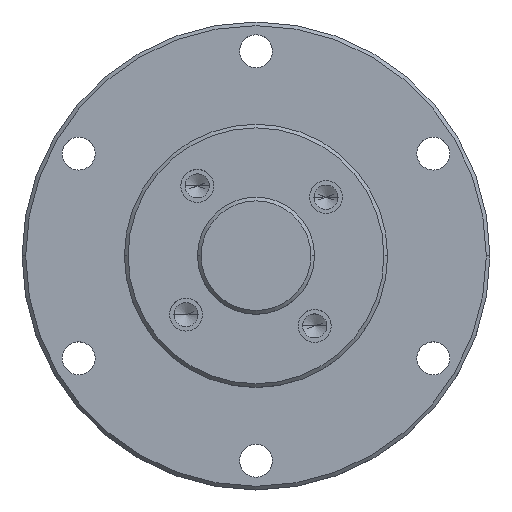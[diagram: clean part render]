
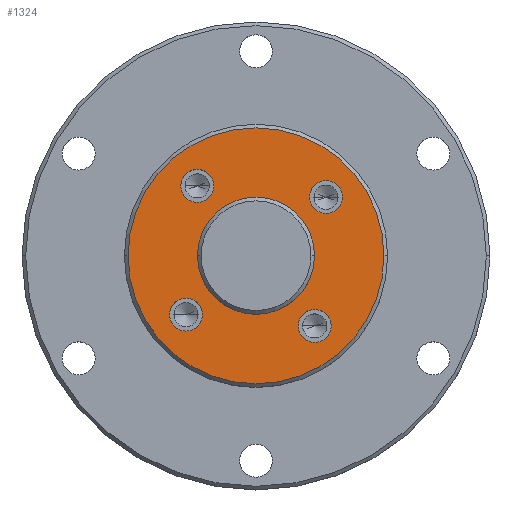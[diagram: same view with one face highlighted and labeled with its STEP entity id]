
A CAD part, top view. The second image highlights one B-rep face of the part: STEP entity #1324.
In plain terms, the highlighted planar face has unit normal (0, 0, 1).
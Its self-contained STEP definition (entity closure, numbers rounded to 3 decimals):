
#10 = DIRECTION ( 'NONE',  ( -1., 0., 0. ) ) ;
#32 = ORIENTED_EDGE ( 'NONE', *, *, #1759, .T. ) ;
#42 = CIRCLE ( 'NONE', #1383, 2.25 ) ;
#44 = FACE_BOUND ( 'NONE', #210, .T. ) ;
#81 = EDGE_CURVE ( 'NONE', #472, #2033, #42, .T. ) ;
#83 = CARTESIAN_POINT ( 'NONE',  ( -9.576, -8.035, 0. ) ) ;
#90 = CARTESIAN_POINT ( 'NONE',  ( 17.5, 0., 0. ) ) ;
#91 = AXIS2_PLACEMENT_3D ( 'NONE', #1137, #793, #290 ) ;
#126 = VERTEX_POINT ( 'NONE', #2074 ) ;
#129 = FACE_BOUND ( 'NONE', #233, .T. ) ;
#144 = CARTESIAN_POINT ( 'NONE',  ( -8.035, 9.576, 0. ) ) ;
#154 = CARTESIAN_POINT ( 'NONE',  ( -17.5, 0., 0. ) ) ;
#161 = CIRCLE ( 'NONE', #1729, 2.25 ) ;
#165 = EDGE_LOOP ( 'NONE', ( #293, #1725 ) ) ;
#179 = CIRCLE ( 'NONE', #936, 2.25 ) ;
#207 = CIRCLE ( 'NONE', #1188, 17.5 ) ;
#210 = EDGE_LOOP ( 'NONE', ( #1830, #887 ) ) ;
#233 = EDGE_LOOP ( 'NONE', ( #311, #1516 ) ) ;
#252 = DIRECTION ( 'NONE',  ( 1., 0., 0. ) ) ;
#280 = CARTESIAN_POINT ( 'NONE',  ( 8., 0., 0. ) ) ;
#290 = DIRECTION ( 'NONE',  ( -1., 0., 0. ) ) ;
#293 = ORIENTED_EDGE ( 'NONE', *, *, #81, .F. ) ;
#304 = DIRECTION ( 'NONE',  ( 1., 0., 0. ) ) ;
#311 = ORIENTED_EDGE ( 'NONE', *, *, #1004, .F. ) ;
#316 = VERTEX_POINT ( 'NONE', #1646 ) ;
#327 = EDGE_CURVE ( 'NONE', #2033, #472, #1574, .T. ) ;
#333 = DIRECTION ( 'NONE',  ( 0., 0., 1. ) ) ;
#361 = CARTESIAN_POINT ( 'NONE',  ( 8.035, -9.576, 0. ) ) ;
#369 = CARTESIAN_POINT ( 'NONE',  ( 8.035, -9.576, 0. ) ) ;
#371 = ORIENTED_EDGE ( 'NONE', *, *, #392, .F. ) ;
#376 = EDGE_CURVE ( 'NONE', #1550, #316, #1522, .T. ) ;
#392 = EDGE_CURVE ( 'NONE', #316, #1550, #770, .T. ) ;
#440 = EDGE_LOOP ( 'NONE', ( #1168, #32 ) ) ;
#472 = VERTEX_POINT ( 'NONE', #1444 ) ;
#490 = CARTESIAN_POINT ( 'NONE',  ( 0., 0., 0. ) ) ;
#504 = AXIS2_PLACEMENT_3D ( 'NONE', #1345, #333, #1519 ) ;
#531 = DIRECTION ( 'NONE',  ( 1., 0., 0. ) ) ;
#537 = DIRECTION ( 'NONE',  ( 1., 0., 0. ) ) ;
#567 = AXIS2_PLACEMENT_3D ( 'NONE', #1775, #748, #1935 ) ;
#609 = CARTESIAN_POINT ( 'NONE',  ( -10.285, 9.576, 0. ) ) ;
#645 = ORIENTED_EDGE ( 'NONE', *, *, #1549, .F. ) ;
#668 = DIRECTION ( 'NONE',  ( 1., 0., 0. ) ) ;
#717 = AXIS2_PLACEMENT_3D ( 'NONE', #2024, #1023, #10 ) ;
#748 = DIRECTION ( 'NONE',  ( 0., 0., 1. ) ) ;
#770 = CIRCLE ( 'NONE', #1150, 2.25 ) ;
#793 = DIRECTION ( 'NONE',  ( 0., 0., -1. ) ) ;
#823 = VERTEX_POINT ( 'NONE', #90 ) ;
#829 = CARTESIAN_POINT ( 'NONE',  ( 0., 0., 0. ) ) ;
#836 = CIRCLE ( 'NONE', #717, 17.5 ) ;
#882 = CARTESIAN_POINT ( 'NONE',  ( 7.326, 8.035, 0. ) ) ;
#887 = ORIENTED_EDGE ( 'NONE', *, *, #1434, .F. ) ;
#889 = CARTESIAN_POINT ( 'NONE',  ( -8., 0., 0. ) ) ;
#900 = DIRECTION ( 'NONE',  ( 0., 0., 1. ) ) ;
#904 = CIRCLE ( 'NONE', #504, 8. ) ;
#923 = EDGE_CURVE ( 'NONE', #1532, #823, #836, .T. ) ;
#936 = AXIS2_PLACEMENT_3D ( 'NONE', #369, #1559, #537 ) ;
#939 = CARTESIAN_POINT ( 'NONE',  ( 9.576, 8.035, 0. ) ) ;
#941 = ORIENTED_EDGE ( 'NONE', *, *, #376, .F. ) ;
#968 = PLANE ( 'NONE',  #91 ) ;
#970 = DIRECTION ( 'NONE',  ( 0., 0., 1. ) ) ;
#995 = DIRECTION ( 'NONE',  ( -1., 0., 0. ) ) ;
#1004 = EDGE_CURVE ( 'NONE', #126, #1548, #179, .T. ) ;
#1015 = CARTESIAN_POINT ( 'NONE',  ( -8.035, 9.576, 0. ) ) ;
#1023 = DIRECTION ( 'NONE',  ( 0., 0., 1. ) ) ;
#1025 = FACE_BOUND ( 'NONE', #1892, .T. ) ;
#1033 = EDGE_LOOP ( 'NONE', ( #1471, #645 ) ) ;
#1068 = DIRECTION ( 'NONE',  ( 1., 0., 0. ) ) ;
#1074 = AXIS2_PLACEMENT_3D ( 'NONE', #490, #1680, #668 ) ;
#1081 = CIRCLE ( 'NONE', #1074, 8. ) ;
#1137 = CARTESIAN_POINT ( 'NONE',  ( 0., 18., 0. ) ) ;
#1150 = AXIS2_PLACEMENT_3D ( 'NONE', #83, #1265, #252 ) ;
#1168 = ORIENTED_EDGE ( 'NONE', *, *, #923, .T. ) ;
#1175 = CARTESIAN_POINT ( 'NONE',  ( -7.326, -8.035, 0. ) ) ;
#1188 = AXIS2_PLACEMENT_3D ( 'NONE', #829, #2000, #995 ) ;
#1191 = DIRECTION ( 'NONE',  ( 1., 0., 0. ) ) ;
#1265 = DIRECTION ( 'NONE',  ( 0., 0., 1. ) ) ;
#1282 = VERTEX_POINT ( 'NONE', #609 ) ;
#1293 = VERTEX_POINT ( 'NONE', #280 ) ;
#1316 = DIRECTION ( 'NONE',  ( 0., 0., 1. ) ) ;
#1324 = ADVANCED_FACE ( 'NONE', ( #2178, #1948, #44, #1507, #129, #1025 ), #968, .F. ) ;
#1345 = CARTESIAN_POINT ( 'NONE',  ( 0., 0., 0. ) ) ;
#1379 = CIRCLE ( 'NONE', #1899, 2.25 ) ;
#1383 = AXIS2_PLACEMENT_3D ( 'NONE', #939, #900, #1068 ) ;
#1394 = EDGE_CURVE ( 'NONE', #1293, #2073, #904, .T. ) ;
#1434 = EDGE_CURVE ( 'NONE', #1282, #2146, #2148, .T. ) ;
#1444 = CARTESIAN_POINT ( 'NONE',  ( 11.826, 8.035, 0. ) ) ;
#1471 = ORIENTED_EDGE ( 'NONE', *, *, #1394, .F. ) ;
#1482 = AXIS2_PLACEMENT_3D ( 'NONE', #1973, #970, #2139 ) ;
#1507 = FACE_BOUND ( 'NONE', #165, .T. ) ;
#1516 = ORIENTED_EDGE ( 'NONE', *, *, #2011, .F. ) ;
#1519 = DIRECTION ( 'NONE',  ( 1., 0., 0. ) ) ;
#1522 = CIRCLE ( 'NONE', #567, 2.25 ) ;
#1532 = VERTEX_POINT ( 'NONE', #154 ) ;
#1548 = VERTEX_POINT ( 'NONE', #2003 ) ;
#1549 = EDGE_CURVE ( 'NONE', #2073, #1293, #1081, .T. ) ;
#1550 = VERTEX_POINT ( 'NONE', #1175 ) ;
#1554 = DIRECTION ( 'NONE',  ( 0., 0., 1. ) ) ;
#1559 = DIRECTION ( 'NONE',  ( 0., 0., 1. ) ) ;
#1574 = CIRCLE ( 'NONE', #1482, 2.25 ) ;
#1646 = CARTESIAN_POINT ( 'NONE',  ( -11.826, -8.035, 0. ) ) ;
#1680 = DIRECTION ( 'NONE',  ( 0., 0., 1. ) ) ;
#1725 = ORIENTED_EDGE ( 'NONE', *, *, #327, .F. ) ;
#1729 = AXIS2_PLACEMENT_3D ( 'NONE', #144, #1316, #304 ) ;
#1734 = EDGE_CURVE ( 'NONE', #2146, #1282, #161, .T. ) ;
#1759 = EDGE_CURVE ( 'NONE', #823, #1532, #207, .T. ) ;
#1775 = CARTESIAN_POINT ( 'NONE',  ( -9.576, -8.035, 0. ) ) ;
#1830 = ORIENTED_EDGE ( 'NONE', *, *, #1734, .F. ) ;
#1892 = EDGE_LOOP ( 'NONE', ( #941, #371 ) ) ;
#1899 = AXIS2_PLACEMENT_3D ( 'NONE', #361, #1554, #531 ) ;
#1908 = CARTESIAN_POINT ( 'NONE',  ( -5.785, 9.576, 0. ) ) ;
#1935 = DIRECTION ( 'NONE',  ( 1., 0., 0. ) ) ;
#1948 = FACE_OUTER_BOUND ( 'NONE', #440, .T. ) ;
#1973 = CARTESIAN_POINT ( 'NONE',  ( 9.576, 8.035, 0. ) ) ;
#2000 = DIRECTION ( 'NONE',  ( 0., 0., 1. ) ) ;
#2003 = CARTESIAN_POINT ( 'NONE',  ( 5.785, -9.576, 0. ) ) ;
#2011 = EDGE_CURVE ( 'NONE', #1548, #126, #1379, .T. ) ;
#2024 = CARTESIAN_POINT ( 'NONE',  ( 0., 0., 0. ) ) ;
#2033 = VERTEX_POINT ( 'NONE', #882 ) ;
#2073 = VERTEX_POINT ( 'NONE', #889 ) ;
#2074 = CARTESIAN_POINT ( 'NONE',  ( 10.285, -9.576, 0. ) ) ;
#2139 = DIRECTION ( 'NONE',  ( 1., 0., 0. ) ) ;
#2146 = VERTEX_POINT ( 'NONE', #1908 ) ;
#2147 = AXIS2_PLACEMENT_3D ( 'NONE', #1015, #2187, #1191 ) ;
#2148 = CIRCLE ( 'NONE', #2147, 2.25 ) ;
#2178 = FACE_BOUND ( 'NONE', #1033, .T. ) ;
#2187 = DIRECTION ( 'NONE',  ( 0., 0., 1. ) ) ;
